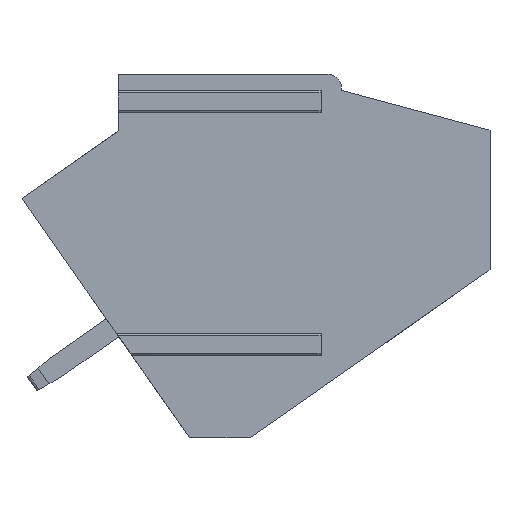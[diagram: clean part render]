
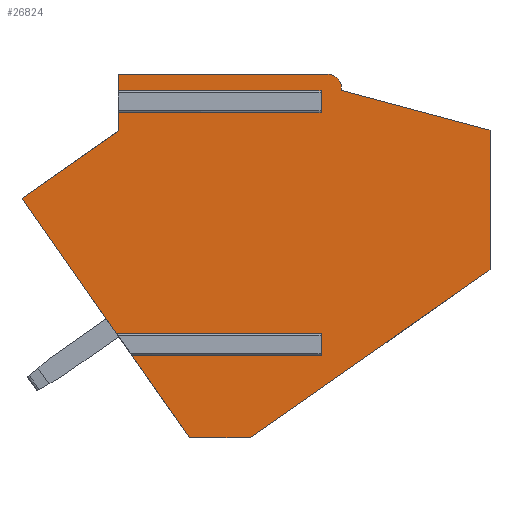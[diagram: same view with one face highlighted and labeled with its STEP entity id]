
A CAD part, front view. The second image highlights one B-rep face of the part: STEP entity #26824.
In plain terms, the highlighted planar face has unit normal (0, -1, 0).
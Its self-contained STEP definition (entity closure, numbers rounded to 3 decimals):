
#135=DIRECTION('',(0.,0.,1.));
#136=VECTOR('',#135,0.67);
#137=CARTESIAN_POINT('',(3.524,4.5,-0.67));
#138=LINE('',#137,#136);
#167=DIRECTION('',(0.,0.,1.));
#168=VECTOR('',#167,0.746);
#169=CARTESIAN_POINT('',(3.524,4.5,-2.076));
#170=LINE('',#169,#168);
#259=DIRECTION('',(1.,0.,0.));
#260=VECTOR('',#259,7.7);
#261=CARTESIAN_POINT('',(3.524,4.5,0.));
#262=LINE('',#261,#260);
#4062=DIRECTION('',(0.,0.,-1.));
#4063=VECTOR('',#4062,5.129);
#4064=CARTESIAN_POINT('',(17.17,4.5,-2.046));
#4065=LINE('',#4064,#4063);
#4234=CARTESIAN_POINT('',(11.224,4.5,-0.5));
#4235=DIRECTION('',(0.,-1.,0.));
#4236=DIRECTION('',(1.,0.,0.));
#4237=AXIS2_PLACEMENT_3D('',#4234,#4235,#4236);
#4239=DIRECTION('',(-0.966,0.,0.259));
#4240=VECTOR('',#4239,5.639);
#4241=CARTESIAN_POINT('',(17.17,4.5,-2.046));
#4242=LINE('',#4241,#4240);
#4243=DIRECTION('',(0.819,0.,0.573));
#4244=VECTOR('',#4243,10.73);
#4245=CARTESIAN_POINT('',(8.378,4.5,-13.325));
#4246=LINE('',#4245,#4244);
#4247=DIRECTION('',(1.,0.,0.));
#4248=VECTOR('',#4247,2.233);
#4249=CARTESIAN_POINT('',(6.144,4.5,-13.325));
#4250=LINE('',#4249,#4248);
#4251=DIRECTION('',(0.573,0.,-0.819));
#4252=VECTOR('',#4251,3.777);
#4253=CARTESIAN_POINT('',(3.979,4.5,-10.23));
#4254=LINE('',#4253,#4252);
#4255=DIRECTION('',(0.573,0.,-0.819));
#4256=VECTOR('',#4255,6.137);
#4257=CARTESIAN_POINT('',(0.,4.5,-4.541));
#4258=LINE('',#4257,#4256);
#4259=DIRECTION('',(-0.819,0.,-0.573));
#4260=VECTOR('',#4259,4.3);
#4261=CARTESIAN_POINT('',(3.524,4.5,-2.076));
#4262=LINE('',#4261,#4260);
#4263=DIRECTION('',(1.,0.,0.));
#4264=VECTOR('',#4263,7.447);
#4265=CARTESIAN_POINT('',(3.524,4.5,-1.33));
#4266=LINE('',#4265,#4264);
#4299=DIRECTION('',(-1.,0.,0.));
#4300=VECTOR('',#4299,7.447);
#4301=CARTESIAN_POINT('',(10.97,4.5,-0.67));
#4302=LINE('',#4301,#4300);
#4303=DIRECTION('',(0.,0.,1.));
#4304=VECTOR('',#4303,0.66);
#4305=CARTESIAN_POINT('',(10.97,4.5,-1.33));
#4306=LINE('',#4305,#4304);
#4359=DIRECTION('',(0.,0.,-1.));
#4360=VECTOR('',#4359,0.086);
#4361=CARTESIAN_POINT('',(11.724,4.5,-0.5));
#4362=LINE('',#4361,#4360);
#4387=DIRECTION('',(1.,0.,0.));
#4388=VECTOR('',#4387,6.991);
#4389=CARTESIAN_POINT('',(3.979,4.5,-10.23));
#4390=LINE('',#4389,#4388);
#4398=CARTESIAN_POINT('',(3.979,4.5,-10.23));
#4445=DIRECTION('',(-1.,0.,0.));
#4446=VECTOR('',#4445,7.452);
#4447=CARTESIAN_POINT('',(10.97,4.5,-9.57));
#4448=LINE('',#4447,#4446);
#4449=DIRECTION('',(0.,0.,1.));
#4450=VECTOR('',#4449,0.66);
#4451=CARTESIAN_POINT('',(10.97,4.5,-10.23));
#4452=LINE('',#4451,#4450);
#20625=CARTESIAN_POINT('',(3.524,4.5,-2.076));
#20626=VERTEX_POINT('',#20625);
#20627=CARTESIAN_POINT('',(0.,4.5,-4.541));
#20628=VERTEX_POINT('',#20627);
#20702=CARTESIAN_POINT('',(3.518,4.5,-9.57));
#20703=VERTEX_POINT('',#20702);
#20715=VERTEX_POINT('',#4398);
#20716=CARTESIAN_POINT('',(6.144,4.5,-13.325));
#20717=VERTEX_POINT('',#20716);
#20774=CARTESIAN_POINT('',(8.378,4.5,-13.325));
#20775=CARTESIAN_POINT('',(17.17,4.5,-7.175));
#20776=VERTEX_POINT('',#20774);
#20777=VERTEX_POINT('',#20775);
#20778=CARTESIAN_POINT('',(3.524,4.5,-1.33));
#20779=CARTESIAN_POINT('',(10.97,4.5,-1.33));
#20780=VERTEX_POINT('',#20778);
#20781=VERTEX_POINT('',#20779);
#20782=CARTESIAN_POINT('',(10.97,4.5,-0.67));
#20783=VERTEX_POINT('',#20782);
#20784=CARTESIAN_POINT('',(3.524,4.5,-0.67));
#20785=VERTEX_POINT('',#20784);
#20786=CARTESIAN_POINT('',(3.524,4.5,0.));
#20787=VERTEX_POINT('',#20786);
#20788=CARTESIAN_POINT('',(11.224,4.5,0.));
#20789=VERTEX_POINT('',#20788);
#20790=CARTESIAN_POINT('',(11.724,4.5,-0.5));
#20791=VERTEX_POINT('',#20790);
#20792=CARTESIAN_POINT('',(11.724,4.5,-0.586));
#20793=VERTEX_POINT('',#20792);
#20794=CARTESIAN_POINT('',(17.17,4.5,-2.046));
#20795=VERTEX_POINT('',#20794);
#20796=CARTESIAN_POINT('',(10.97,4.5,-10.23));
#20797=VERTEX_POINT('',#20796);
#20798=CARTESIAN_POINT('',(10.97,4.5,-9.57));
#20799=VERTEX_POINT('',#20798);
#26789=CARTESIAN_POINT('',(3.524,4.5,-4.641));
#26790=DIRECTION('',(0.,-1.,0.));
#26791=DIRECTION('',(0.,0.,-1.));
#26792=AXIS2_PLACEMENT_3D('',#26789,#26790,#26791);
#26793=PLANE('',#26792);
#26794=ORIENTED_EDGE('',*,*,#22036,.T.);
#26796=ORIENTED_EDGE('',*,*,#26795,.T.);
#26798=ORIENTED_EDGE('',*,*,#26797,.T.);
#26800=ORIENTED_EDGE('',*,*,#26799,.T.);
#26801=ORIENTED_EDGE('',*,*,#22020,.T.);
#26802=ORIENTED_EDGE('',*,*,#22113,.T.);
#26804=ORIENTED_EDGE('',*,*,#26803,.F.);
#26806=ORIENTED_EDGE('',*,*,#26805,.T.);
#26808=ORIENTED_EDGE('',*,*,#26807,.F.);
#26809=ORIENTED_EDGE('',*,*,#26675,.T.);
#26810=ORIENTED_EDGE('',*,*,#22790,.F.);
#26812=ORIENTED_EDGE('',*,*,#26811,.F.);
#26813=ORIENTED_EDGE('',*,*,#21861,.F.);
#26815=ORIENTED_EDGE('',*,*,#26814,.T.);
#26817=ORIENTED_EDGE('',*,*,#26816,.T.);
#26819=ORIENTED_EDGE('',*,*,#26818,.T.);
#26820=ORIENTED_EDGE('',*,*,#21845,.F.);
#26821=ORIENTED_EDGE('',*,*,#22345,.F.);
#26822=EDGE_LOOP('',(#26794,#26796,#26798,#26800,#26801,#26802,#26804,#26806,
#26808,#26809,#26810,#26812,#26813,#26815,#26817,#26819,#26820,#26821));
#26823=FACE_OUTER_BOUND('',#26822,.F.);
#26824=ADVANCED_FACE('',(#26823),#26793,.T.);
#4238=CIRCLE('',#4237,0.5);
#21845=EDGE_CURVE('',#20628,#20703,#4258,.T.);
#21861=EDGE_CURVE('',#20715,#20717,#4254,.T.);
#22020=EDGE_CURVE('',#20785,#20787,#138,.T.);
#22036=EDGE_CURVE('',#20626,#20780,#170,.T.);
#22113=EDGE_CURVE('',#20787,#20789,#262,.T.);
#22345=EDGE_CURVE('',#20626,#20628,#4262,.T.);
#22790=EDGE_CURVE('',#20776,#20777,#4246,.T.);
#26675=EDGE_CURVE('',#20795,#20777,#4065,.T.);
#26795=EDGE_CURVE('',#20780,#20781,#4266,.T.);
#26797=EDGE_CURVE('',#20781,#20783,#4306,.T.);
#26799=EDGE_CURVE('',#20783,#20785,#4302,.T.);
#26803=EDGE_CURVE('',#20791,#20789,#4238,.T.);
#26805=EDGE_CURVE('',#20791,#20793,#4362,.T.);
#26807=EDGE_CURVE('',#20795,#20793,#4242,.T.);
#26811=EDGE_CURVE('',#20717,#20776,#4250,.T.);
#26814=EDGE_CURVE('',#20715,#20797,#4390,.T.);
#26816=EDGE_CURVE('',#20797,#20799,#4452,.T.);
#26818=EDGE_CURVE('',#20799,#20703,#4448,.T.);
